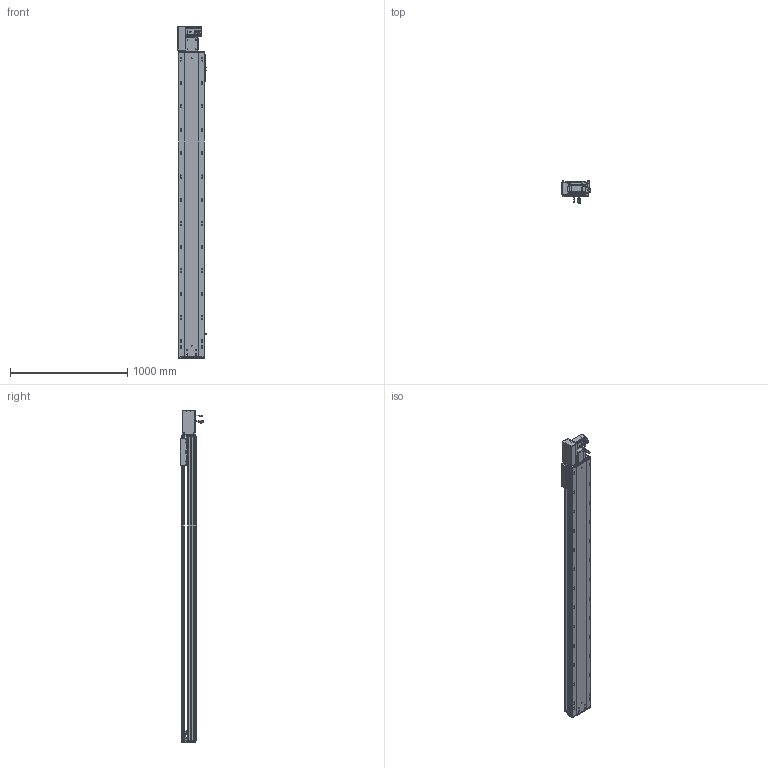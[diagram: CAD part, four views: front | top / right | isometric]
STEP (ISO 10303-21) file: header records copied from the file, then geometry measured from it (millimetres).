
FILE_DESCRIPTION (( 'STEP AP203' ), '1' );
FILE_NAME ('RY220-T-300-LK.SLDASM_2250.step', '2022-07-25T08:15:34', ( '' ), ( '' ), 'SwSTEP 2.0', 'SolidWorks 2016', '' );
FILE_SCHEMA (( 'CONFIG_CONTROL_DESIGN' ));
Length unit declared in the file: millimetre
Products named in the file (14): RY220-T-湍謫欶(鍼踢); 滅袉蝶18-15; 110A-T-肮祭謫釱傷裔; 覜茼ん672; 怢湛750W_ECMA-CX0807ES; RY220圉猾敕々湍臏賑輸; RY220-T-300-LK.SLDASM_2250; RY220翋肮祭謫釱; RY220翋肮祭謫裔啣; RY220-T-蛌殏萇儂假蚾啣(750W); RY220-T菁釱-300_2250; RY220-同步轮副支撑座6304×2; RY220-T-300-奻裔啣_2250; RY220-俋离672覜茼んえ
Assembly tree (18 placements, depth 2):
  RY220-T-300-LK.SLDASM_2250
    RY220-T菁釱-300_2250
    RY220翋肮祭謫釱
    覜茼ん672  x3
    RY220圉猾敕々湍臏賑輸
    RY220-T-300-奻裔啣_2250
    RY220-俋离672覜茼んえ
    滅袉蝶18-15  x3
    RY220翋肮祭謫裔啣  x2
    110A-T-肮祭謫釱傷裔
    怢湛750W_ECMA-CX0807ES
    RY220-T-湍謫欶(鍼踢)
    RY220-T-蛌殏萇儂假蚾啣(750W)
    RY220-同步轮副支撑座6304×2
Bounding box: 239.7 x 198.77 x 2829 mm (x, y, z)
Volume: 20346024.5 mm3; surface area: 6218000.6 mm2
Topology: 19 solids, 19 shells, 2890 faces, 7991 edges, 5024 vertices
Faces by surface type: cylinder 1406, plane 1069, cone 333, bspline 56, sphere 16, torus 10
Entity records: 96371 total; most frequent: CARTESIAN_POINT 27289, ORIENTED_EDGE 14298, DIRECTION 13720, EDGE_CURVE 7149, AXIS2_PLACEMENT_3D 4924, VERTEX_POINT 4648, VECTOR 3872, LINE 3872
